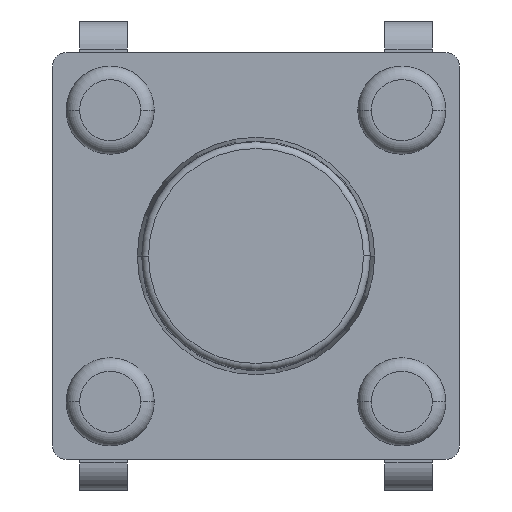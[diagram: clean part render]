
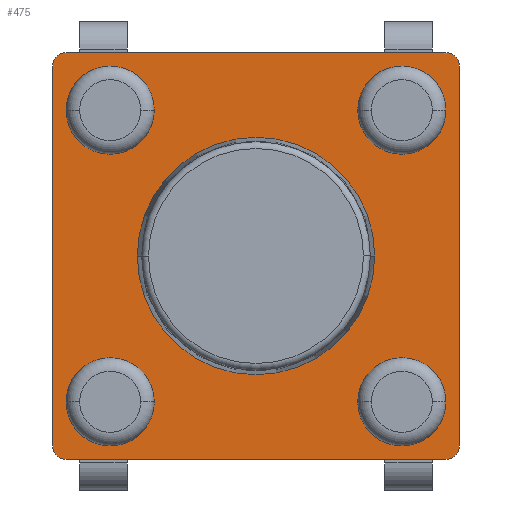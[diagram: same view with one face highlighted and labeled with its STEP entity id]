
A CAD part, front view. The second image highlights one B-rep face of the part: STEP entity #475.
In plain terms, the highlighted planar face has unit normal (0, -1, 0).
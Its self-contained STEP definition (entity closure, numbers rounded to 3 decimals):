
#120=CARTESIAN_POINT('',(-2.15,-0.3,-2.15));
#121=DIRECTION('',(0.,-1.,0.));
#122=DIRECTION('',(1.,0.,0.));
#123=AXIS2_PLACEMENT_3D('',#120,#121,#122);
#125=CARTESIAN_POINT('',(-2.15,-0.3,-2.15));
#126=DIRECTION('',(0.,-1.,0.));
#127=DIRECTION('',(-1.,0.,0.));
#128=AXIS2_PLACEMENT_3D('',#125,#126,#127);
#130=CARTESIAN_POINT('',(2.15,-0.3,-2.15));
#131=DIRECTION('',(0.,-1.,0.));
#132=DIRECTION('',(1.,0.,0.));
#133=AXIS2_PLACEMENT_3D('',#130,#131,#132);
#135=CARTESIAN_POINT('',(2.15,-0.3,-2.15));
#136=DIRECTION('',(0.,-1.,0.));
#137=DIRECTION('',(-1.,0.,0.));
#138=AXIS2_PLACEMENT_3D('',#135,#136,#137);
#140=CARTESIAN_POINT('',(2.15,-0.3,2.15));
#141=DIRECTION('',(0.,-1.,0.));
#142=DIRECTION('',(1.,0.,0.));
#143=AXIS2_PLACEMENT_3D('',#140,#141,#142);
#145=CARTESIAN_POINT('',(2.15,-0.3,2.15));
#146=DIRECTION('',(0.,-1.,0.));
#147=DIRECTION('',(-1.,0.,0.));
#148=AXIS2_PLACEMENT_3D('',#145,#146,#147);
#150=CARTESIAN_POINT('',(-2.15,-0.3,2.15));
#151=DIRECTION('',(0.,-1.,0.));
#152=DIRECTION('',(1.,0.,0.));
#153=AXIS2_PLACEMENT_3D('',#150,#151,#152);
#155=CARTESIAN_POINT('',(-2.15,-0.3,2.15));
#156=DIRECTION('',(0.,-1.,0.));
#157=DIRECTION('',(-1.,0.,0.));
#158=AXIS2_PLACEMENT_3D('',#155,#156,#157);
#160=CARTESIAN_POINT('',(0.,-0.3,0.));
#161=DIRECTION('',(0.,-1.,0.));
#162=DIRECTION('',(1.,0.,0.));
#163=AXIS2_PLACEMENT_3D('',#160,#161,#162);
#165=CARTESIAN_POINT('',(0.,-0.3,0.));
#166=DIRECTION('',(0.,-1.,0.));
#167=DIRECTION('',(-1.,0.,0.));
#168=AXIS2_PLACEMENT_3D('',#165,#166,#167);
#170=CARTESIAN_POINT('',(-2.8,-0.3,-2.8));
#171=DIRECTION('',(0.,-1.,0.));
#172=DIRECTION('',(-1.,0.,0.));
#173=AXIS2_PLACEMENT_3D('',#170,#171,#172);
#175=DIRECTION('',(0.,0.,1.));
#176=VECTOR('',#175,5.6);
#177=CARTESIAN_POINT('',(-3.,-0.3,-2.8));
#178=LINE('',#177,#176);
#179=CARTESIAN_POINT('',(-2.8,-0.3,2.8));
#180=DIRECTION('',(0.,-1.,0.));
#181=DIRECTION('',(0.,0.,1.));
#182=AXIS2_PLACEMENT_3D('',#179,#180,#181);
#184=DIRECTION('',(1.,0.,0.));
#185=VECTOR('',#184,5.6);
#186=CARTESIAN_POINT('',(-2.8,-0.3,3.));
#187=LINE('',#186,#185);
#188=CARTESIAN_POINT('',(2.8,-0.3,2.8));
#189=DIRECTION('',(0.,-1.,0.));
#190=DIRECTION('',(1.,0.,0.));
#191=AXIS2_PLACEMENT_3D('',#188,#189,#190);
#193=DIRECTION('',(0.,0.,-1.));
#194=VECTOR('',#193,5.6);
#195=CARTESIAN_POINT('',(3.,-0.3,2.8));
#196=LINE('',#195,#194);
#197=CARTESIAN_POINT('',(2.8,-0.3,-2.8));
#198=DIRECTION('',(0.,-1.,0.));
#199=DIRECTION('',(0.,0.,-1.));
#200=AXIS2_PLACEMENT_3D('',#197,#198,#199);
#202=DIRECTION('',(-1.,0.,0.));
#203=VECTOR('',#202,5.6);
#204=CARTESIAN_POINT('',(2.8,-0.3,-3.));
#205=LINE('',#204,#203);
#286=CARTESIAN_POINT('',(-1.75,-0.3,-2.15));
#287=CARTESIAN_POINT('',(-2.55,-0.3,-2.15));
#288=VERTEX_POINT('',#286);
#289=VERTEX_POINT('',#287);
#290=CARTESIAN_POINT('',(2.55,-0.3,-2.15));
#291=CARTESIAN_POINT('',(1.75,-0.3,-2.15));
#292=VERTEX_POINT('',#290);
#293=VERTEX_POINT('',#291);
#294=CARTESIAN_POINT('',(2.55,-0.3,2.15));
#295=CARTESIAN_POINT('',(1.75,-0.3,2.15));
#296=VERTEX_POINT('',#294);
#297=VERTEX_POINT('',#295);
#298=CARTESIAN_POINT('',(-1.75,-0.3,2.15));
#299=CARTESIAN_POINT('',(-2.55,-0.3,2.15));
#300=VERTEX_POINT('',#298);
#301=VERTEX_POINT('',#299);
#306=CARTESIAN_POINT('',(1.75,-0.3,0.));
#307=CARTESIAN_POINT('',(-1.75,-0.3,0.));
#308=VERTEX_POINT('',#306);
#309=VERTEX_POINT('',#307);
#314=CARTESIAN_POINT('',(-3.,-0.3,-2.8));
#315=VERTEX_POINT('',#314);
#316=CARTESIAN_POINT('',(-2.8,-0.3,-3.));
#317=VERTEX_POINT('',#316);
#322=CARTESIAN_POINT('',(-2.8,-0.3,3.));
#323=VERTEX_POINT('',#322);
#324=CARTESIAN_POINT('',(-3.,-0.3,2.8));
#325=VERTEX_POINT('',#324);
#330=CARTESIAN_POINT('',(3.,-0.3,2.8));
#331=VERTEX_POINT('',#330);
#332=CARTESIAN_POINT('',(2.8,-0.3,3.));
#333=VERTEX_POINT('',#332);
#338=CARTESIAN_POINT('',(2.8,-0.3,-3.));
#339=VERTEX_POINT('',#338);
#340=CARTESIAN_POINT('',(3.,-0.3,-2.8));
#341=VERTEX_POINT('',#340);
#424=CARTESIAN_POINT('',(0.,-0.3,0.));
#425=DIRECTION('',(0.,1.,0.));
#426=DIRECTION('',(1.,0.,0.));
#427=AXIS2_PLACEMENT_3D('',#424,#425,#426);
#428=PLANE('',#427);
#430=ORIENTED_EDGE('',*,*,#429,.F.);
#432=ORIENTED_EDGE('',*,*,#431,.T.);
#434=ORIENTED_EDGE('',*,*,#433,.F.);
#436=ORIENTED_EDGE('',*,*,#435,.T.);
#438=ORIENTED_EDGE('',*,*,#437,.F.);
#440=ORIENTED_EDGE('',*,*,#439,.T.);
#442=ORIENTED_EDGE('',*,*,#441,.F.);
#444=ORIENTED_EDGE('',*,*,#443,.T.);
#445=EDGE_LOOP('',(#430,#432,#434,#436,#438,#440,#442,#444));
#446=FACE_OUTER_BOUND('',#445,.F.);
#448=ORIENTED_EDGE('',*,*,#447,.T.);
#450=ORIENTED_EDGE('',*,*,#449,.T.);
#451=EDGE_LOOP('',(#448,#450));
#452=FACE_BOUND('',#451,.F.);
#454=ORIENTED_EDGE('',*,*,#453,.T.);
#456=ORIENTED_EDGE('',*,*,#455,.T.);
#457=EDGE_LOOP('',(#454,#456));
#458=FACE_BOUND('',#457,.F.);
#460=ORIENTED_EDGE('',*,*,#459,.T.);
#462=ORIENTED_EDGE('',*,*,#461,.T.);
#463=EDGE_LOOP('',(#460,#462));
#464=FACE_BOUND('',#463,.F.);
#466=ORIENTED_EDGE('',*,*,#465,.T.);
#468=ORIENTED_EDGE('',*,*,#467,.T.);
#469=EDGE_LOOP('',(#466,#468));
#470=FACE_BOUND('',#469,.F.);
#471=ORIENTED_EDGE('',*,*,#404,.T.);
#472=ORIENTED_EDGE('',*,*,#418,.T.);
#473=EDGE_LOOP('',(#471,#472));
#474=FACE_BOUND('',#473,.F.);
#124=CIRCLE('',#123,0.4);
#129=CIRCLE('',#128,0.4);
#134=CIRCLE('',#133,0.4);
#139=CIRCLE('',#138,0.4);
#144=CIRCLE('',#143,0.4);
#149=CIRCLE('',#148,0.4);
#154=CIRCLE('',#153,0.4);
#159=CIRCLE('',#158,0.4);
#164=CIRCLE('',#163,1.75);
#169=CIRCLE('',#168,1.75);
#174=CIRCLE('',#173,0.2);
#183=CIRCLE('',#182,0.2);
#192=CIRCLE('',#191,0.2);
#201=CIRCLE('',#200,0.2);
#404=EDGE_CURVE('',#288,#289,#124,.T.);
#418=EDGE_CURVE('',#289,#288,#129,.T.);
#429=EDGE_CURVE('',#315,#317,#174,.T.);
#431=EDGE_CURVE('',#315,#325,#178,.T.);
#433=EDGE_CURVE('',#323,#325,#183,.T.);
#435=EDGE_CURVE('',#323,#333,#187,.T.);
#437=EDGE_CURVE('',#331,#333,#192,.T.);
#439=EDGE_CURVE('',#331,#341,#196,.T.);
#441=EDGE_CURVE('',#339,#341,#201,.T.);
#443=EDGE_CURVE('',#339,#317,#205,.T.);
#447=EDGE_CURVE('',#292,#293,#134,.T.);
#449=EDGE_CURVE('',#293,#292,#139,.T.);
#453=EDGE_CURVE('',#296,#297,#144,.T.);
#455=EDGE_CURVE('',#297,#296,#149,.T.);
#459=EDGE_CURVE('',#300,#301,#154,.T.);
#461=EDGE_CURVE('',#301,#300,#159,.T.);
#465=EDGE_CURVE('',#308,#309,#164,.T.);
#467=EDGE_CURVE('',#309,#308,#169,.T.);
#475=ADVANCED_FACE('',(#446,#452,#458,#464,#470,#474),#428,.F.);
